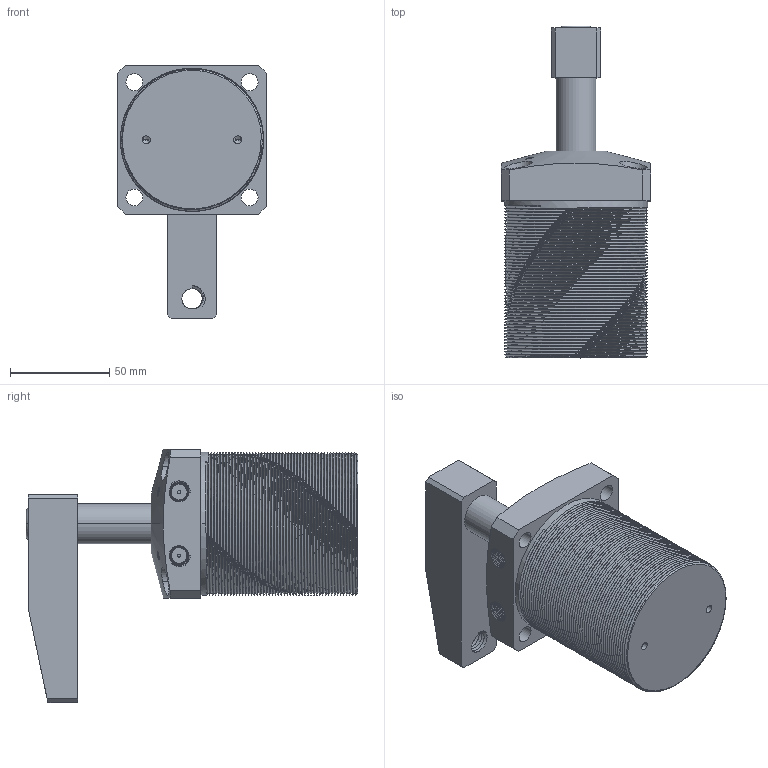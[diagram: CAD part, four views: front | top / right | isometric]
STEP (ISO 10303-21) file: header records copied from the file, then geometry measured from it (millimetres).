
FILE_DESCRIPTION((''),'2;1');
FILE_NAME('NPSU-50_ASM','2010-02-02T',('Administrator'),(''),'PRO/ENGINEER BY PARAMETRIC TECHNOLOGY CORPORATION, 2007170','PRO/ENGINEER BY PARAMETRIC TECHNOLOGY CORPORATION, 2007170','');
FILE_SCHEMA(('CONFIG_CONTROL_DESIGN'));
Length unit declared in the file: millimetre
Products named in the file (5): NHSU-50-90-03; NHSU-50-90-01; NHSU-50-90-02; M10X20; NPSU-50_ASM
Assembly tree (4 placements, depth 2):
  NPSU-50_ASM
    NHSU-50-90-03
    NHSU-50-90-01
    NHSU-50-90-02
    M10X20
Bounding box: 75 x 167 x 127.5 mm (x, y, z)
Volume: 415270 mm3; surface area: 98250.5 mm2
Topology: 4 solids, 4 shells, 451 faces, 1197 edges, 770 vertices
Faces by surface type: cylinder 234, bspline 77, plane 66, cone 60, torus 14
Entity records: 38860 total; most frequent: CARTESIAN_POINT 28878, ORIENTED_EDGE 2378, DIRECTION 1494, EDGE_CURVE 1189, VERTEX_POINT 770, B_SPLINE_CURVE_WITH_KNOTS 599, AXIS2_PLACEMENT_3D 521, EDGE_LOOP 487
